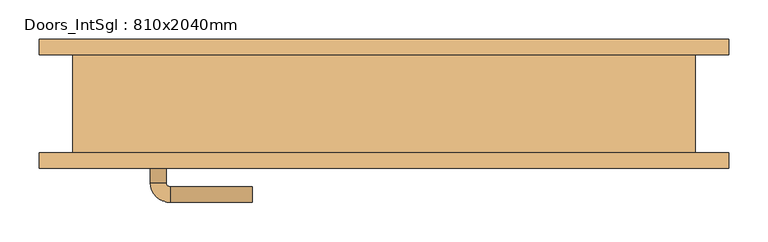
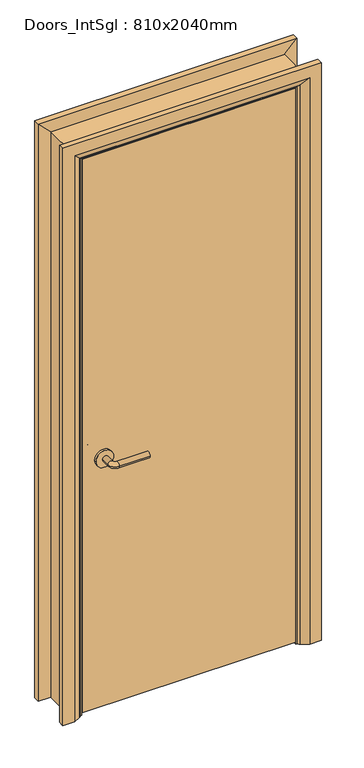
"""IFC4 building model written with IfcOpenShell, lengths in millimetres: door geometry, Doors_IntSgl : 810x2040mm."""

from ifc_helpers import new_model, si_unit, point, frame, frame_2d, origin, place, context, project, spatial, polyline, circle_curve, ellipse_curve, trimmed, segment, composite_curve, outline, extrude, faceted_brep, source, transform, mapped, element, save
from ifc_brep_helpers import plane_surface, cylinder_surface, revolved_surface, advanced_brep


def doors_intsgl_810x2040mm_f9adfaf9(model_context):
    return source(origin(), model_context, "Body", "SolidModel", [
        advanced_brep(
        [(-298.0, -16.5, 900.0), (-278.0, -16.5, 900.0), (-298.0, 13.5, 900.0), (-278.0, 13.5, 900.0), (-273.0, 18.5, 900.0), (-273.0, 38.5, 900.0), (-168.0, 38.5, 900.0), (-168.0, 18.5, 900.0)],
        [
            (0, 1, circle_curve(frame((-288.0, -16.5, 900.0), z_axis=(0.0, -1.0, 0.0), x_axis=(1.0, 0.0, 0.0)), 10.0)),
            (1, 0, circle_curve(frame((-288.0, -16.5, 900.0), z_axis=(0.0, -1.0, 0.0), x_axis=(1.0, 0.0, 0.0)), 10.0)),
            (0, 2),
            (2, 3, circle_curve(frame((-288.0, 13.5, 900.0), z_axis=(0.0, -1.0, 0.0), x_axis=(1.0, 0.0, 0.0)), 10.0)),
            (3, 1),
            (3, 2, circle_curve(frame((-288.0, 13.5, 900.0), z_axis=(0.0, -1.0, 0.0), x_axis=(1.0, 0.0, 0.0)), 10.0)),
            (4, 3, circle_curve(frame((-273.0, 13.5, 900.0), z_axis=(0.0, 0.0, 1.0), x_axis=(-1.0, 0.0, 0.0)), 5.0)),
            (2, 5, circle_curve(frame((-273.0, 13.5, 900.0), z_axis=(0.0, 0.0, -1.0), x_axis=(-1.0, 0.0, 0.0)), 25.0)),
            (5, 4, circle_curve(frame((-273.0, 28.5, 900.0), z_axis=(-1.0, 0.0, 0.0), x_axis=(0.0, -1.0, 0.0)), 10.0)),
            (4, 5, circle_curve(frame((-273.0, 28.5, 900.0), z_axis=(-1.0, 0.0, 0.0), x_axis=(0.0, -1.0, 0.0)), 10.0)),
            (6, 7, circle_curve(frame((-168.0, 28.5, 900.0), z_axis=(1.0, 0.0, 0.0), x_axis=(0.0, -1.0, 0.0)), 10.0)),
            (7, 6, circle_curve(frame((-168.0, 28.5, 900.0), z_axis=(1.0, 0.0, 0.0), x_axis=(0.0, -1.0, 0.0)), 10.0)),
            (5, 6),
            (7, 4),
        ],
        [
            plane_surface(frame((-288.0, -16.5, 900.0), z_axis=(0.0, -1.0, 0.0), x_axis=(0.0, 0.0, 1.0))),
            cylinder_surface(frame((-288.0, -16.5, 900.0), z_axis=(0.0, -1.0, 0.0), x_axis=(1.0, 0.0, 0.0)), 10.0),
            revolved_surface(trimmed(ellipse_curve(frame((-288.0, 13.5, 900.0), z_axis=(0.0, -1.0, 0.0), x_axis=(1.0, 0.0, 0.0)), 10.0, 10.0), [point((-298.0, 13.5, 900.0))], [point((-278.0, 13.5, 900.0))], True, "CARTESIAN"), (-273.0, 13.5, 900.0), (0.0, 0.0, -1.0)),
            revolved_surface(trimmed(ellipse_curve(frame((-288.0, 13.5, 900.0), z_axis=(0.0, -1.0, 0.0), x_axis=(1.0, 0.0, 0.0)), 10.0, 10.0), [point((-278.0, 13.5, 900.0))], [point((-298.0, 13.5, 900.0))], True, "CARTESIAN"), (-273.0, 13.5, 900.0), (0.0, 0.0, -1.0)),
            plane_surface(frame((-168.0, 28.5, 900.0), z_axis=(1.0, 0.0, 0.0), x_axis=(0.0, 0.0, 1.0))),
            cylinder_surface(frame((-273.0, 28.5, 900.0), z_axis=(-1.0, 0.0, 0.0), x_axis=(0.0, -1.0, 0.0)), 10.0),
        ],
        [
            (0, [[1, 2]]),
            (1, [[-1, 3, 4, 5]]),
            (1, [[-2, -5, 6, -3]]),
            (2, [[7, -4, 8, 9]]),
            (3, [[-8, -6, -7, 10]]),
            (4, [[11, 12]]),
            (5, [[-9, 13, -12, 14]]),
            (5, [[-10, -14, -11, -13]]),
        ],
    ),
        extrude(outline(composite_curve([segment(trimmed(circle_curve(frame_2d((900.0, -290.5)), 30.0), [point((900.0, -320.5))], [point((900.0, -260.5))], False, "CARTESIAN"), True, "CONTINUOUS"), segment(trimmed(circle_curve(frame_2d((900.0, -290.5)), 30.0), [point((900.0, -260.5))], [point((900.0, -320.5))], False, "CARTESIAN"), True, "CONTINUOUS")], self_intersect=False)), frame((0.0, -24.5, 0.0), z_axis=(0.0, 1.0, 0.0), x_axis=(0.0, 0.0, 1.0)), (0.0, 0.0, 1.0), 8.0),
        advanced_brep(
        [(-298.0, -70.5, 900.0), (-278.0, -70.5, 900.0), (-278.0, -100.5, 900.0), (-298.0, -100.5, 900.0), (-273.0, -105.5, 900.0), (-273.0, -125.5, 900.0), (-168.0, -125.5, 900.0), (-168.0, -105.5, 900.0)],
        [
            (0, 1, circle_curve(frame((-288.0, -70.5, 900.0), z_axis=(0.0, 1.0, 0.0), x_axis=(1.0, 0.0, 0.0)), 10.0)),
            (1, 0, circle_curve(frame((-288.0, -70.5, 900.0), z_axis=(0.0, 1.0, 0.0), x_axis=(1.0, 0.0, 0.0)), 10.0)),
            (1, 2),
            (2, 3, circle_curve(frame((-288.0, -100.5, 900.0), z_axis=(0.0, 1.0, 0.0), x_axis=(1.0, 0.0, 0.0)), 10.0)),
            (3, 0),
            (3, 2, circle_curve(frame((-288.0, -100.5, 900.0), z_axis=(0.0, 1.0, 0.0), x_axis=(1.0, 0.0, 0.0)), 10.0)),
            (4, 5, circle_curve(frame((-273.0, -115.5, 900.0), z_axis=(-1.0, 0.0, 0.0), x_axis=(0.0, 1.0, 0.0)), 10.0)),
            (5, 3, circle_curve(frame((-273.0, -100.5, 900.0), z_axis=(0.0, 0.0, -1.0), x_axis=(-1.0, 0.0, 0.0)), 25.0)),
            (2, 4, circle_curve(frame((-273.0, -100.5, 900.0), z_axis=(0.0, 0.0, 1.0), x_axis=(-1.0, 0.0, 0.0)), 5.0)),
            (5, 4, circle_curve(frame((-273.0, -115.5, 900.0), z_axis=(-1.0, 0.0, 0.0), x_axis=(0.0, 1.0, 0.0)), 10.0)),
            (6, 7, circle_curve(frame((-168.0, -115.5, 900.0), z_axis=(1.0, 0.0, 0.0), x_axis=(0.0, 1.0, 0.0)), 10.0)),
            (7, 6, circle_curve(frame((-168.0, -115.5, 900.0), z_axis=(1.0, 0.0, 0.0), x_axis=(0.0, 1.0, 0.0)), 10.0)),
            (4, 7),
            (6, 5),
        ],
        [
            plane_surface(frame((-288.0, -70.5, 900.0), z_axis=(0.0, 1.0, 0.0), x_axis=(0.0, 0.0, 1.0))),
            cylinder_surface(frame((-288.0, -70.5, 900.0), z_axis=(0.0, 1.0, 0.0), x_axis=(1.0, 0.0, 0.0)), 10.0),
            revolved_surface(trimmed(ellipse_curve(frame((-288.0, -100.5, 900.0), z_axis=(0.0, -1.0, 0.0), x_axis=(1.0, 0.0, 0.0)), 10.0, 10.0), [point((-298.0, -100.5, 900.0))], [point((-278.0, -100.5, 900.0))], True, "CARTESIAN"), (-273.0, -100.5, 900.0), (0.0, 0.0, -1.0)),
            revolved_surface(trimmed(ellipse_curve(frame((-288.0, -100.5, 900.0), z_axis=(0.0, -1.0, 0.0), x_axis=(1.0, 0.0, 0.0)), 10.0, 10.0), [point((-278.0, -100.5, 900.0))], [point((-298.0, -100.5, 900.0))], True, "CARTESIAN"), (-273.0, -100.5, 900.0), (0.0, 0.0, -1.0)),
            plane_surface(frame((-168.0, -115.5, 900.0), z_axis=(1.0, 0.0, 0.0), x_axis=(0.0, 0.0, 1.0))),
            cylinder_surface(frame((-273.0, -115.5, 900.0), z_axis=(-1.0, 0.0, 0.0), x_axis=(0.0, 1.0, 0.0)), 10.0),
        ],
        [
            (0, [[1, 2]]),
            (1, [[3, 4, 5, -2]]),
            (1, [[-5, 6, -3, -1]]),
            (2, [[7, 8, -4, 9]]),
            (3, [[10, -9, -6, -8]]),
            (4, [[11, 12]]),
            (5, [[13, -11, 14, -7]]),
            (5, [[-14, -12, -13, -10]]),
        ],
    ),
        extrude(outline(composite_curve([segment(trimmed(circle_curve(frame_2d((900.0, -290.5)), 30.0), [point((900.0, -320.5))], [point((900.0, -260.5))], False, "CARTESIAN"), True, "CONTINUOUS"), segment(trimmed(circle_curve(frame_2d((900.0, -290.5)), 30.0), [point((900.0, -260.5))], [point((900.0, -320.5))], False, "CARTESIAN"), True, "CONTINUOUS")], self_intersect=False)), frame((0.0, -70.5, 0.0), z_axis=(0.0, 1.0, 0.0), x_axis=(0.0, 0.0, 1.0)), (0.0, 0.0, 1.0), 8.0),
        extrude(outline(polyline([(363.0, -24.5), (363.0, -62.5), (-363.0, -62.5), (-363.0, -24.5), (363.0, -24.5)])), frame((0.0, 0.0, 8.0), z_axis=(0.0, 0.0, 1.0), x_axis=(1.0, 0.0, 0.0)), (0.0, 0.0, 1.0), 1990.0),
        advanced_brep(
        [(440.0, -82.5, 0.0), (400.0, -82.5, 0.0), (374.0, -68.5, 0.0), (370.0, -62.5, 0.0), (440.0, -62.5, 0.0), (440.0, -62.5, 2075.0), (440.0, -82.5, 2075.0), (370.0, -62.5, 2005.0), (-370.0, -62.5, 2005.0), (-370.0, -62.5, 0.0), (-440.0, -62.5, 0.0), (-440.0, -62.5, 2075.0), (374.0, -68.5, 2009.0), (400.0, -82.5, 2035.0), (-440.0, -82.5, 2075.0), (-440.0, -82.5, 0.0), (-400.0, -82.5, 0.0), (-400.0, -82.5, 2035.0), (-374.0, -68.5, 0.0), (-374.0, -68.5, 2009.0)],
        [
            (0, 1),
            (1, 2),
            (2, 3, circle_curve(frame((378.0, -61.5, 0.0), z_axis=(0.0, 0.0, -1.0), x_axis=(1.0, 0.0, 0.0)), 8.0622577)),
            (3, 4),
            (4, 0),
            (4, 5),
            (5, 6),
            (6, 0),
            (3, 7),
            (7, 8),
            (8, 9),
            (9, 10),
            (10, 11),
            (11, 5),
            (2, 12),
            (12, 7, ellipse_curve(frame((378.0, -61.5, 2013.0), z_axis=(0.7071067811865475, 0.0, -0.7071067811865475), x_axis=(-0.7071067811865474, 0.0, -0.7071067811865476)), 11.4017543, 8.0622577)),
            (1, 13),
            (13, 12),
            (6, 14),
            (14, 15),
            (15, 16),
            (16, 17),
            (17, 13),
            (10, 15),
            (14, 11),
            (9, 18, circle_curve(frame((-378.0, -61.5, 0.0), z_axis=(0.0, 0.0, -1.0), x_axis=(-1.0, 0.0, 0.0)), 8.0622577)),
            (18, 16),
            (19, 18),
            (8, 19, ellipse_curve(frame((-378.0, -61.5, 2013.0), z_axis=(-0.7071067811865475, 0.0, -0.7071067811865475), x_axis=(-0.7071067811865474, 0.0, 0.7071067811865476)), 11.4017543, 8.0622577)),
            (19, 17),
            (12, 19),
        ],
        [
            plane_surface(frame((370.0, -62.5, 0.0), z_axis=(0.0, 0.0, -1.0), x_axis=(0.0, 1.0, 0.0))),
            plane_surface(frame((440.0, -82.5, 0.0), z_axis=(1.0, 0.0, 0.0), x_axis=(0.0, 0.0, 1.0))),
            plane_surface(frame((440.0, -62.5, 0.0), z_axis=(0.0, 1.0, 0.0), x_axis=(0.0, 0.0, 1.0))),
            cylinder_surface(frame((378.0, -61.5, 0.0), z_axis=(0.0, 0.0, -1.0), x_axis=(1.0, 0.0, 0.0)), 8.0622577),
            plane_surface(frame((374.0, -68.5, 0.0), z_axis=(-0.4740998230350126, -0.880471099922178, 0.0), x_axis=(0.0, 0.0, 1.0))),
            plane_surface(frame((400.0, -82.5, 0.0), z_axis=(0.0, -1.0, 0.0), x_axis=(0.0, 0.0, 1.0))),
            plane_surface(frame((-440.0, -82.5, 2075.0), z_axis=(-1.0, 0.0, 0.0), x_axis=(0.0, 0.0, -1.0))),
            plane_surface(frame((-370.0, -62.5, 0.0), z_axis=(0.0, 0.0, -1.0), x_axis=(0.0, 1.0, 0.0))),
            cylinder_surface(frame((-378.0, -61.5, 2005.0), z_axis=(0.0, 0.0, 1.0), x_axis=(-1.0, 0.0, 0.0)), 8.0622577),
            plane_surface(frame((-374.0, -68.5, 2009.0), z_axis=(0.47409982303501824, -0.8804710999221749, 0.0), x_axis=(0.0, 0.0, -1.0))),
            plane_surface(frame((440.0, -82.5, 2075.0), z_axis=(0.0, 0.0, 1.0), x_axis=(-1.0, 0.0, 0.0))),
            cylinder_surface(frame((370.0, -61.5, 2013.0), z_axis=(1.0, 0.0, 0.0), x_axis=(0.0, 0.0, 1.0)), 8.0622577),
            plane_surface(frame((374.0, -68.5, 2009.0), z_axis=(0.0, -0.8804710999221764, -0.4740998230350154), x_axis=(-1.0, 0.0, 0.0))),
        ],
        [
            (0, [[1, 2, 3, 4, 5]]),
            (1, [[6, 7, 8, -5]]),
            (2, [[9, 10, 11, 12, 13, 14, -6, -4]]),
            (3, [[15, 16, -9, -3]]),
            (4, [[17, 18, -15, -2]]),
            (5, [[-8, 19, 20, 21, 22, 23, -17, -1]]),
            (6, [[-13, 24, -20, 25]]),
            (7, [[-24, -12, 26, 27, -21]]),
            (8, [[28, -26, -11, 29]]),
            (9, [[-22, -27, -28, 30]]),
            (10, [[-14, -25, -19, -7]]),
            (11, [[31, -29, -10, -16]]),
            (12, [[-23, -30, -31, -18]]),
        ],
    ),
        extrude(outline(polyline([(0.0, -346.0), (1981.0, -346.0), (1981.0, 346.0), (0.0, 346.0), (0.0, 365.0), (2000.0, 365.0), (2000.0, -365.0), (0.0, -365.0), (0.0, -346.0)])), frame((0.0, -22.5, 0.0), z_axis=(0.0, 1.0, 0.0), x_axis=(0.0, 0.0, 1.0)), (0.0, 0.0, 1.0), 32.0),
        advanced_brep(
        [(-440.0, 82.5, 0.0), (-400.0, 82.5, 0.0), (-374.0, 68.5, 0.0), (-370.0, 62.5, 0.0), (-440.0, 62.5, 0.0), (-440.0, 62.5, 2075.0), (-440.0, 82.5, 2075.0), (-370.0, 62.5, 2005.0), (-374.0, 68.5, 2009.0), (-400.0, 82.5, 2035.0), (440.0, 82.5, 0.0), (440.0, 62.5, 0.0), (370.0, 62.5, 0.0), (374.0, 68.5, 0.0), (400.0, 82.5, 0.0), (440.0, 82.5, 2075.0), (400.0, 82.5, 2035.0), (374.0, 68.5, 2009.0), (370.0, 62.5, 2005.0), (440.0, 62.5, 2075.0)],
        [
            (0, 1),
            (1, 2),
            (2, 3, circle_curve(frame((-378.0, 61.5, 0.0), z_axis=(0.0, 0.0, -1.0), x_axis=(-1.0, 0.0, 0.0)), 8.0622577)),
            (3, 4),
            (4, 0),
            (4, 5),
            (5, 6),
            (6, 0),
            (3, 7),
            (7, 5),
            (2, 8),
            (8, 7, ellipse_curve(frame((-378.0, 61.5, 2013.0), z_axis=(-0.7071067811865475, 0.0, -0.7071067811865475), x_axis=(0.7071067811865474, 0.0, -0.7071067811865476)), 11.4017543, 8.0622577)),
            (1, 9),
            (9, 8),
            (6, 9),
            (10, 11),
            (11, 12),
            (12, 13, circle_curve(frame((378.0, 61.5, 0.0), z_axis=(0.0, 0.0, -1.0), x_axis=(1.0, 0.0, 0.0)), 8.0622577)),
            (13, 14),
            (14, 10),
            (15, 10),
            (14, 16),
            (16, 15),
            (13, 17),
            (17, 16),
            (12, 18),
            (18, 17, ellipse_curve(frame((378.0, 61.5, 2013.0), z_axis=(0.7071067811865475, 0.0, -0.7071067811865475), x_axis=(0.7071067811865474, 0.0, 0.7071067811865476)), 11.4017543, 8.0622577)),
            (11, 19),
            (19, 18),
            (15, 19),
            (5, 19),
            (15, 6),
            (7, 18),
            (8, 17),
            (9, 16),
        ],
        [
            plane_surface(frame((-370.0, 135.3010989, 0.0), z_axis=(0.0, 0.0, -1.0), x_axis=(1.0, 0.0, 0.0))),
            plane_surface(frame((-440.0, 82.5, 0.0), z_axis=(-1.0, 0.0, 0.0), x_axis=(0.0, 0.0, 1.0))),
            plane_surface(frame((-440.0, 62.5, 0.0), z_axis=(0.0, -1.0, 0.0), x_axis=(0.0, 0.0, 1.0))),
            cylinder_surface(frame((-378.0, 61.5, 0.0), z_axis=(0.0, 0.0, -1.0), x_axis=(-1.0, 0.0, 0.0)), 8.0622577),
            plane_surface(frame((-374.0, 68.5, 0.0), z_axis=(0.4740998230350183, 0.8804710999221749, 0.0), x_axis=(0.0, 0.0, 1.0))),
            plane_surface(frame((-400.0, 82.5, 0.0), z_axis=(0.0, 1.0, 0.0), x_axis=(0.0, 0.0, 1.0))),
            plane_surface(frame((370.0, 135.3010989, 0.0), z_axis=(0.0, 0.0, -1.0), x_axis=(-1.0, 0.0, 0.0))),
            plane_surface(frame((400.0, 82.5, 2035.0), z_axis=(0.0, 1.0, 0.0), x_axis=(0.0, 0.0, -1.0))),
            plane_surface(frame((374.0, 68.5, 2009.0), z_axis=(-0.4740998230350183, 0.8804710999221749, 0.0), x_axis=(0.0, 0.0, -1.0))),
            cylinder_surface(frame((378.0, 61.5, 2005.0), z_axis=(0.0, 0.0, 1.0), x_axis=(1.0, 0.0, 0.0)), 8.0622577),
            plane_surface(frame((440.0, 62.5, 2075.0), z_axis=(0.0, -1.0, 0.0), x_axis=(0.0, 0.0, -1.0))),
            plane_surface(frame((440.0, 82.5, 2075.0), z_axis=(1.0, 0.0, 0.0), x_axis=(0.0, 0.0, -1.0))),
            plane_surface(frame((-440.0, 82.5, 2075.0), z_axis=(0.0, 0.0, 1.0), x_axis=(1.0, 0.0, 0.0))),
            plane_surface(frame((-440.0, 62.5, 2075.0), z_axis=(0.0, -1.0, 0.0), x_axis=(1.0, 0.0, 0.0))),
            cylinder_surface(frame((-370.0, 61.5, 2013.0), z_axis=(-1.0, 0.0, 0.0), x_axis=(0.0, 0.0, 1.0)), 8.0622577),
            plane_surface(frame((-374.0, 68.5, 2009.0), z_axis=(0.0, 0.8804710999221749, -0.4740998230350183), x_axis=(1.0, 0.0, 0.0))),
            plane_surface(frame((-400.0, 82.5, 2035.0), z_axis=(0.0, 1.0, 0.0), x_axis=(1.0, 0.0, 0.0))),
        ],
        [
            (0, [[1, 2, 3, 4, 5]]),
            (1, [[6, 7, 8, -5]]),
            (2, [[9, 10, -6, -4]]),
            (3, [[11, 12, -9, -3]]),
            (4, [[13, 14, -11, -2]]),
            (5, [[-8, 15, -13, -1]]),
            (6, [[16, 17, 18, 19, 20]]),
            (7, [[21, -20, 22, 23]]),
            (8, [[-22, -19, 24, 25]]),
            (9, [[-24, -18, 26, 27]]),
            (10, [[-26, -17, 28, 29]]),
            (11, [[-28, -16, -21, 30]]),
            (12, [[31, -30, 32, -7]]),
            (13, [[33, -29, -31, -10]]),
            (14, [[34, -27, -33, -12]]),
            (15, [[35, -25, -34, -14]]),
            (16, [[-32, -23, -35, -15]]),
        ],
    ),
        faceted_brep([(-365.0, -62.5, 0.0), (-397.0, -62.5, 0.0), (-397.0, 62.5, 0.0), (-365.0, 62.5, 0.0), (-365.0, 62.5, 2000.0), (-365.0, -62.5, 2000.0), (-397.0, 62.5, 2032.0), (-397.0, -62.5, 2032.0), (365.0, -62.5, 0.0), (365.0, 62.5, 0.0), (397.0, 62.5, 0.0), (397.0, -62.5, 0.0), (365.0, -62.5, 2000.0), (397.0, -62.5, 2032.0), (397.0, 62.5, 2032.0), (365.0, 62.5, 2000.0)], [[[0, 1, 2, 3]], [[3, 4, 5, 0]], [[2, 6, 4, 3]], [[1, 7, 6, 2]], [[0, 5, 7, 1]], [[8, 9, 10, 11]], [[12, 8, 11, 13]], [[13, 11, 10, 14]], [[14, 10, 9, 15]], [[15, 9, 8, 12]], [[4, 15, 12, 5]], [[6, 14, 15, 4]], [[7, 13, 14, 6]], [[5, 12, 13, 7]]]),
    ])


if __name__ == "__main__":
    model = new_model("IFC4")
    model_context = context("Model", 3, world=origin())
    ifc_project = project(units=[si_unit("LENGTHUNIT", "METRE", prefix="MILLI")], contexts=[model_context])
    site = spatial("IfcSite", under=ifc_project)
    building = spatial("IfcBuilding", under=site)
    placement = place(None, origin())
    doors_intsgl_810x2040mm_shape = doors_intsgl_810x2040mm_f9adfaf9(model_context)
    element("IfcDoor", 1, ObjectType="Doors_IntSgl : 810x2040mm", at=placement, inside=building, context=model_context, shape_type="MappedRepresentation", body=[
        mapped(doors_intsgl_810x2040mm_shape, transform((0.0, 0.0, 0.0), x_axis=(1.0, 0.0, 0.0), y_axis=(0.0, 1.0, 0.0), z_axis=(0.0, 0.0, 1.0))),
    ])
    save(model, "model.ifc")
